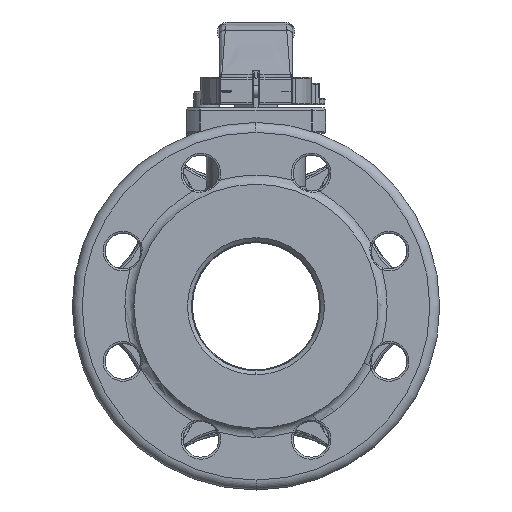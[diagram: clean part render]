
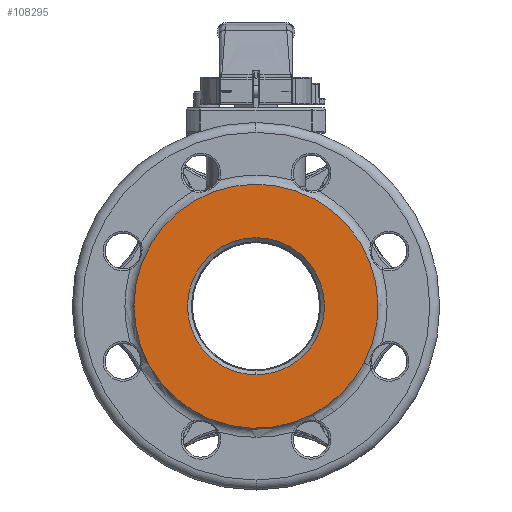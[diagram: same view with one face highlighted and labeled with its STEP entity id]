
A CAD part, left-side view. The second image highlights one B-rep face of the part: STEP entity #108295.
In plain terms, the highlighted planar face has unit normal (-1, 0, 0).
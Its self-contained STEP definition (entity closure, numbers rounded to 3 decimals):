
#31907=CARTESIAN_POINT('',(-65.,0.,0.));
#31908=DIRECTION('',(-1.,0.,0.));
#31909=DIRECTION('',(0.,-0.886,-0.464));
#31910=AXIS2_PLACEMENT_3D('',#31907,#31908,#31909);
#31912=CARTESIAN_POINT('',(-65.,0.,0.));
#31913=DIRECTION('',(-1.,0.,0.));
#31914=DIRECTION('',(0.,-0.464,-0.886));
#31915=AXIS2_PLACEMENT_3D('',#31912,#31913,#31914);
#31917=CARTESIAN_POINT('',(-65.,0.,0.));
#31918=DIRECTION('',(-1.,0.,0.));
#31919=DIRECTION('',(0.,0.,1.));
#31920=AXIS2_PLACEMENT_3D('',#31917,#31918,#31919);
#31922=CARTESIAN_POINT('',(-65.,0.,0.));
#31923=DIRECTION('',(1.,0.,0.));
#31924=DIRECTION('',(0.,0.,1.));
#31925=AXIS2_PLACEMENT_3D('',#31922,#31923,#31924);
#51532=CARTESIAN_POINT('',(-65.,0.,34.5));
#51533=CARTESIAN_POINT('',(-65.,0.,-34.5));
#51534=VERTEX_POINT('',#51532);
#51535=VERTEX_POINT('',#51533);
#51540=CARTESIAN_POINT('',(-65.,-54.4,-28.509));
#51541=CARTESIAN_POINT('',(-65.,-28.509,-54.4));
#51542=VERTEX_POINT('',#51540);
#51543=VERTEX_POINT('',#51541);
#108281=CARTESIAN_POINT('',(-65.,0.,0.));
#108282=DIRECTION('',(-1.,0.,0.));
#108283=DIRECTION('',(0.,0.,1.));
#108284=AXIS2_PLACEMENT_3D('',#108281,#108282,#108283);
#108285=PLANE('',#108284);
#108286=ORIENTED_EDGE('',*,*,#108242,.F.);
#108288=ORIENTED_EDGE('',*,*,#108287,.F.);
#108289=EDGE_LOOP('',(#108286,#108288));
#108290=FACE_OUTER_BOUND('',#108289,.F.);
#108291=ORIENTED_EDGE('',*,*,#62582,.T.);
#108292=ORIENTED_EDGE('',*,*,#62567,.F.);
#108293=EDGE_LOOP('',(#108291,#108292));
#108294=FACE_BOUND('',#108293,.F.);
#108295=ADVANCED_FACE('',(#108290,#108294),#108285,.T.);
#31911=CIRCLE('',#31910,61.417);
#31916=CIRCLE('',#31915,61.417);
#31921=CIRCLE('',#31920,34.5);
#31926=CIRCLE('',#31925,34.5);
#62567=EDGE_CURVE('',#51534,#51535,#31926,.T.);
#62582=EDGE_CURVE('',#51534,#51535,#31921,.T.);
#108242=EDGE_CURVE('',#51542,#51543,#31911,.T.);
#108287=EDGE_CURVE('',#51543,#51542,#31916,.T.);
